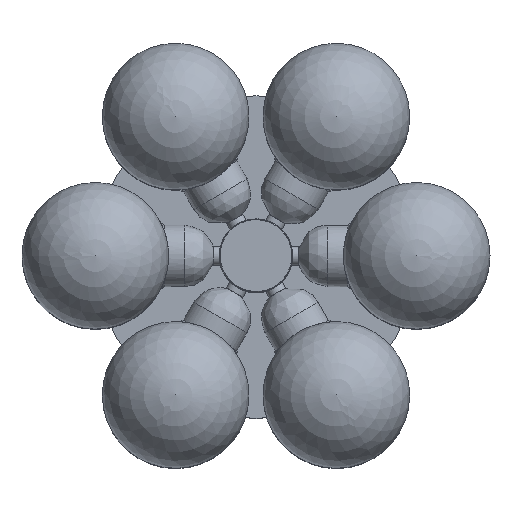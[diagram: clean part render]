
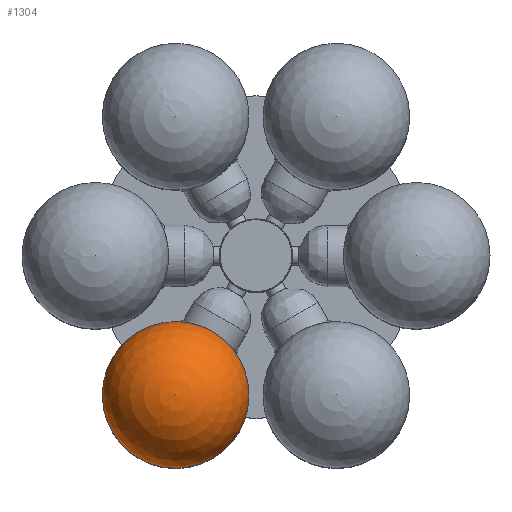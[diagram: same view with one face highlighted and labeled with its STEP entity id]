
A CAD part, top view. The second image highlights one B-rep face of the part: STEP entity #1304.
In plain terms, the highlighted spherical face has radius 50 mm.
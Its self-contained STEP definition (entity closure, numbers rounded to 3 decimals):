
#18=SPHERICAL_SURFACE('',#1478,50.);
#293=FACE_OUTER_BOUND('',#398,.T.);
#398=EDGE_LOOP('',(#1145,#1146,#1147,#1148));
#470=CIRCLE('',#1429,50.);
#472=CIRCLE('',#1431,50.);
#499=CIRCLE('',#1479,50.);
#597=VERTEX_POINT('',#2775);
#598=VERTEX_POINT('',#2776);
#632=VERTEX_POINT('',#3166);
#760=EDGE_CURVE('',#597,#598,#470,.T.);
#763=EDGE_CURVE('',#598,#597,#472,.T.);
#816=EDGE_CURVE('',#632,#598,#499,.T.);
#1145=ORIENTED_EDGE('',*,*,#760,.T.);
#1146=ORIENTED_EDGE('',*,*,#816,.F.);
#1147=ORIENTED_EDGE('',*,*,#816,.T.);
#1148=ORIENTED_EDGE('',*,*,#763,.T.);
#1304=ADVANCED_FACE('',(#293),#18,.T.);
#1429=AXIS2_PLACEMENT_3D('',#2777,#1696,#1697);
#1431=AXIS2_PLACEMENT_3D('',#2781,#1701,#1702);
#1478=AXIS2_PLACEMENT_3D('',#3165,#1807,#1808);
#1479=AXIS2_PLACEMENT_3D('',#3167,#1809,#1810);
#1696=DIRECTION('center_axis',(0.,0.,
1.));
#1697=DIRECTION('ref_axis',(0.866,-0.5,0.));
#1701=DIRECTION('center_axis',(0.,0.,
1.));
#1702=DIRECTION('ref_axis',(0.866,-0.5,0.));
#1807=DIRECTION('center_axis',(0.,0.,
1.));
#1808=DIRECTION('ref_axis',(0.5,0.866,0.));
#1809=DIRECTION('center_axis',(0.866,-0.5,0.));
#1810=DIRECTION('ref_axis',(-0.5,-0.866,0.));
#2775=CARTESIAN_POINT('',(-11.473,-119.872,573.));
#2776=CARTESIAN_POINT('',(-79.774,-138.173,573.));
#2777=CARTESIAN_POINT('Origin',(-54.774,-94.872,573.));
#2781=CARTESIAN_POINT('Origin',(-54.774,-94.872,573.));
#3165=CARTESIAN_POINT('Origin',(-54.774,-94.872,573.));
#3166=CARTESIAN_POINT('',(-54.774,-94.872,623.));
#3167=CARTESIAN_POINT('Origin',(-54.774,-94.872,573.));
